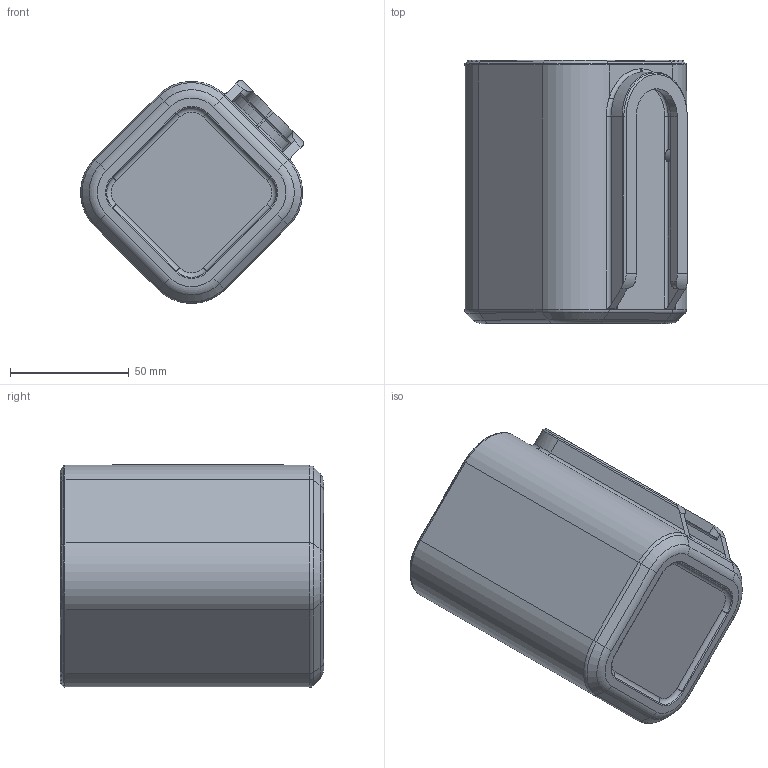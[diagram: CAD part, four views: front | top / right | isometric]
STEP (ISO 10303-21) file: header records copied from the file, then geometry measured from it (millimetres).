
FILE_DESCRIPTION (( 'STEP AP214' ), '1' );
FILE_NAME ('MONO_038-p228_02.STEP', '2026-03-24T01:29:53', ( '' ), ( '' ), 'SwSTEP 2.0', 'SolidWorks 2024', '' );
FILE_SCHEMA (( 'AUTOMOTIVE_DESIGN' ));
Length unit declared in the file: millimetre
Products named in the file (1): MONO_038-p228_02
Bounding box: 93.92 x 111 x 93.92 mm (x, y, z)
Volume: 194763.5 mm3; surface area: 69444.7 mm2
Topology: 1 solids, 1 shells, 171 faces, 391 edges, 224 vertices
Faces by surface type: cylinder 68, torus 44, plane 43, cone 14, bspline 2
Entity records: 4982 total; most frequent: CARTESIAN_POINT 1067, DIRECTION 889, ORIENTED_EDGE 782, EDGE_CURVE 391, AXIS2_PLACEMENT_3D 354, VERTEX_POINT 224, CIRCLE 184, LINE 181
